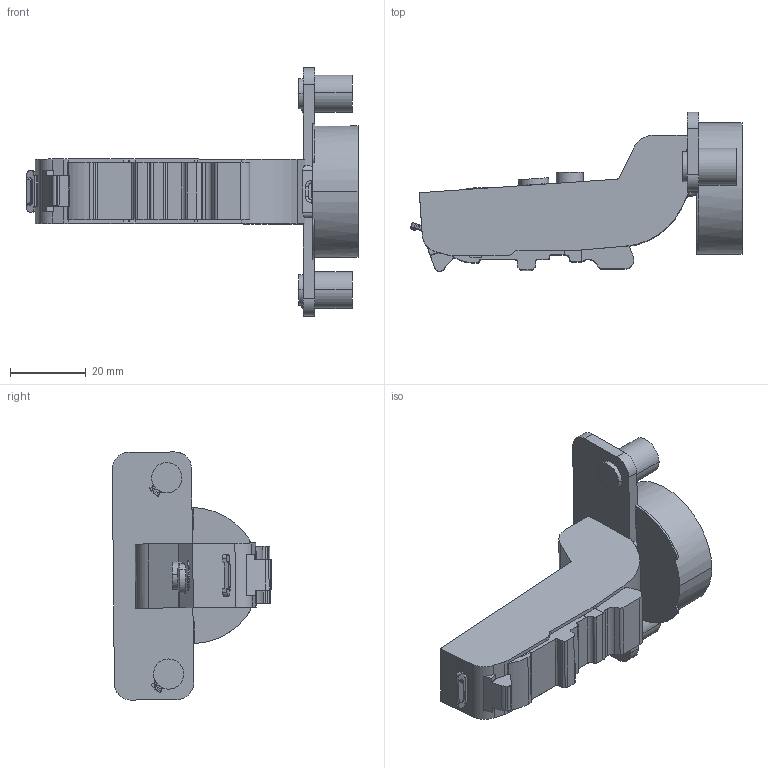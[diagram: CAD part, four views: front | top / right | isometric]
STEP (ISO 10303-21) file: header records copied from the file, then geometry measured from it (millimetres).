
FILE_DESCRIPTION (( 'STEP AP203' ), '1' );
FILE_NAME ('C81C877T0FAB DTC 3D CLOSE.STEP', '2024-07-24T05:43:07', ( '微软用户' ), ( '微软中国' ), 'SwSTEP 2.0', 'SolidWorks 2021', '' );
FILE_SCHEMA (( 'CONFIG_CONTROL_DESIGN' ));
Length unit declared in the file: millimetre
Products named in the file (1): C81C877T0FAB DTC 3D CLOSE
Bounding box: 87.94 x 42.2 x 65.71 mm (x, y, z)
Volume: 42254.2 mm3; surface area: 12259.8 mm2
Topology: 1 solids, 2 shells, 311 faces, 851 edges, 552 vertices
Faces by surface type: cylinder 139, plane 118, torus 34, bspline 15, sphere 4, cone 1
Entity records: 10418 total; most frequent: CARTESIAN_POINT 2517, ORIENTED_EDGE 1702, DIRECTION 1617, EDGE_CURVE 851, AXIS2_PLACEMENT_3D 598, VERTEX_POINT 552, LINE 421, VECTOR 421
